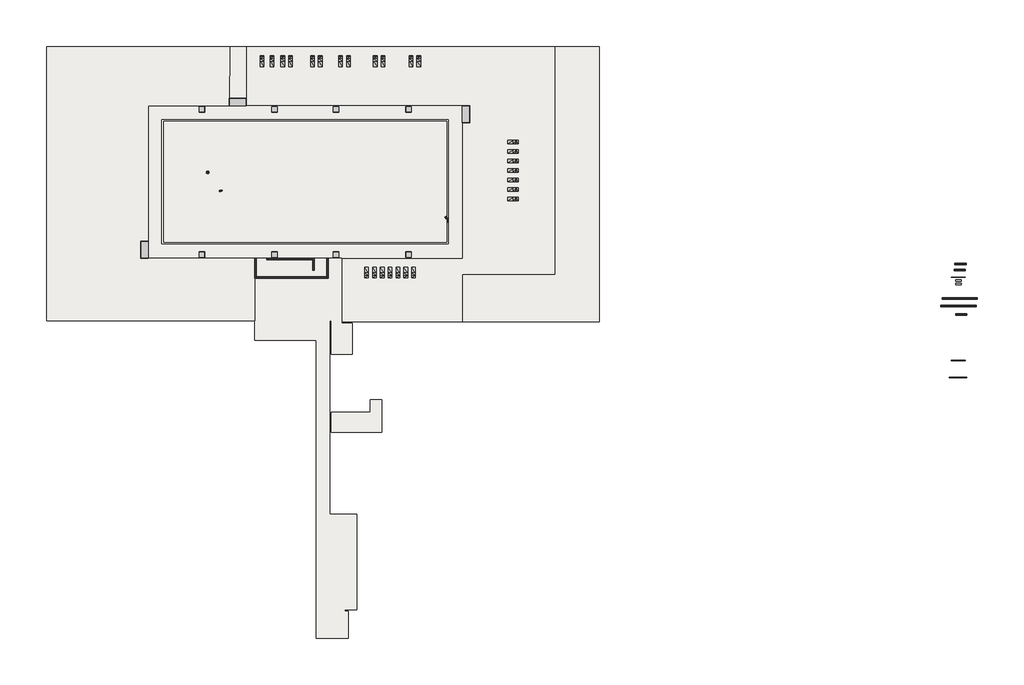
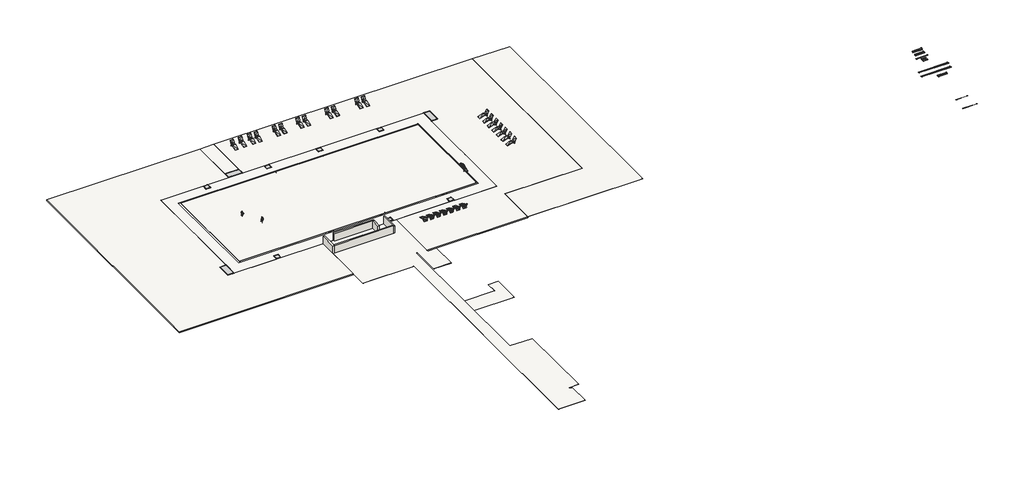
# One storey, incomplete: 29 geographic elements, 23 walls, 21 proxies, 15 slabs.
"""IFC4 building model written with IfcOpenShell, lengths in millimetres."""

from ifc_helpers import new_model, si_unit, frame, origin, origin_with_axes, place, context, project, spatial, polyline, outline, extrude, faceted_brep, transform, mapped, element, save
from components import generic_models_048bb886, generic_models_4fe02839, generic_models_8e2ee31f, generic_models_60fd4de7, generic_models_51e0f152, generic_models_03d70148, generic_models_17735d4e, generic_models_f22ee03e, generic_models_8f0458ef, generic_models_db3a6eff, generic_models_d2bb3819, geographic_element_292c5166, geographic_element_7d3aa87a, geographic_element_a44fb911, geographic_element_951a75af

model = new_model("IFC4")

# Units and contexts
model_context = context("Model", 3, world=origin())
ifc_project = project(units=[si_unit("LENGTHUNIT", "METRE", prefix="MILLI")], contexts=[model_context])

# Site, building, storey
site = spatial("IfcSite", under=ifc_project)
building = spatial("IfcBuilding", under=site)
storey = spatial("IfcBuildingStorey", under=building, Name="1_NPlaya", Elevation=0.0)

# Proxies
placement = place(None, origin())
generic_models_shape = generic_models_048bb886(model_context)
element("IfcBuildingElementProxy", 1, Name="PLATO DE DUCHA : Plato de Ducha 135x300 cm", ObjectType="PLATO DE DUCHA : Plato de Ducha 135x300 cm", at=placement, inside=storey, context=model_context, shape_type="MappedRepresentation", body=[
    mapped(generic_models_shape, transform((-25847.4673719, 28311.5375498, 0.0), x_axis=(0.0, 1.0, 0.0), y_axis=(-1.0, 0.0, 0.0), z_axis=(0.0, 0.0, 1.0))),
])
element("IfcBuildingElementProxy", 2, Name="PLATO DE DUCHA : Plato de Ducha 135x300 cm", ObjectType="PLATO DE DUCHA : Plato de Ducha 135x300 cm", at=placement, inside=storey, context=model_context, shape_type="MappedRepresentation", body=[
    mapped(generic_models_shape, transform((-9171.3667779, 54700.9783322, 0.0), x_axis=(0.9999983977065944, -0.0017901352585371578, 0.0), y_axis=(0.0017901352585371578, 0.9999983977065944, 0.0), z_axis=(0.0, 0.0, 1.0))),
])
element("IfcBuildingElementProxy", 3, Name="PLATO DE DUCHA : Plato de Ducha 135x300 cm", ObjectType="PLATO DE DUCHA : Plato de Ducha 135x300 cm", at=placement, inside=storey, context=model_context, shape_type="MappedRepresentation", body=[
    mapped(generic_models_shape, transform((31622.4505079, 52528.6494833, 0.0), x_axis=(0.0, 1.0, 0.0), y_axis=(-1.0, 0.0, 0.0), z_axis=(0.0, 0.0, 1.0))),
])
generic_models_2_shape = generic_models_4fe02839(model_context)
element("IfcBuildingElementProxy", 4, Name="Muestra 2.5m 138 : Muestra 2.5m 138", ObjectType="Muestra 2.5m 138 : Muestra 2.5m 138", at=placement, inside=storey, context=model_context, shape_type="MappedRepresentation", body=[
    mapped(generic_models_2_shape, transform((-25192.9622892, 18777.7075668, 0.0), x_axis=(1.0, 0.0, 0.0), y_axis=(0.0, 1.0, 0.0), z_axis=(0.0, 0.0, 1.0))),
])
generic_models_3_shape = generic_models_8e2ee31f(model_context)
element("IfcBuildingElementProxy", 5, Name="PLATO DE DUCHA : Plato de Ducha 100x100 cm", ObjectType="PLATO DE DUCHA : Plato de Ducha 100x100 cm", at=placement, inside=storey, context=model_context, shape_type="MappedRepresentation", body=[
    mapped(generic_models_3_shape, transform((-15612.6508784, 53411.6355885, 0.0), x_axis=(1.0, 0.0, 0.0), y_axis=(0.0, 1.0, 0.0), z_axis=(0.0, 0.0, 1.0))),
])
element("IfcBuildingElementProxy", 6, Name="PLATO DE DUCHA : Plato de Ducha 100x100 cm", ObjectType="PLATO DE DUCHA : Plato de Ducha 100x100 cm", at=placement, inside=storey, context=model_context, shape_type="MappedRepresentation", body=[
    mapped(generic_models_3_shape, transform((-2612.1426139, 53411.6355885, 0.0), x_axis=(1.0, 0.0, 0.0), y_axis=(0.0, 1.0, 0.0), z_axis=(0.0, 0.0, 1.0))),
])
element("IfcBuildingElementProxy", 7, Name="PLATO DE DUCHA : Plato de Ducha 100x100 cm", ObjectType="PLATO DE DUCHA : Plato de Ducha 100x100 cm", at=placement, inside=storey, context=model_context, shape_type="MappedRepresentation", body=[
    mapped(generic_models_3_shape, transform((8387.3059827, 53411.6355885, 0.0), x_axis=(1.0, 0.0, 0.0), y_axis=(0.0, 1.0, 0.0), z_axis=(0.0, 0.0, 1.0))),
])
element("IfcBuildingElementProxy", 8, Name="PLATO DE DUCHA : Plato de Ducha 100x100 cm", ObjectType="PLATO DE DUCHA : Plato de Ducha 100x100 cm", at=placement, inside=storey, context=model_context, shape_type="MappedRepresentation", body=[
    mapped(generic_models_3_shape, transform((21387.2830589, 53411.6355885, 0.0), x_axis=(1.0, 0.0, 0.0), y_axis=(0.0, 1.0, 0.0), z_axis=(0.0, 0.0, 1.0))),
])
element("IfcBuildingElementProxy", 9, Name="PLATO DE DUCHA : Plato de Ducha 100x100 cm", ObjectType="PLATO DE DUCHA : Plato de Ducha 100x100 cm", at=placement, inside=storey, context=model_context, shape_type="MappedRepresentation", body=[
    mapped(generic_models_3_shape, transform((21387.2830589, 27428.9858459, 0.0), x_axis=(1.0, 0.0, 0.0), y_axis=(0.0, 1.0, 0.0), z_axis=(0.0, 0.0, 1.0))),
])
element("IfcBuildingElementProxy", 10, Name="PLATO DE DUCHA : Plato de Ducha 100x100 cm", ObjectType="PLATO DE DUCHA : Plato de Ducha 100x100 cm", at=placement, inside=storey, context=model_context, shape_type="MappedRepresentation", body=[
    mapped(generic_models_3_shape, transform((8387.3059827, 27428.9858459, 0.0), x_axis=(1.0, 0.0, 0.0), y_axis=(0.0, 1.0, 0.0), z_axis=(0.0, 0.0, 1.0))),
])
element("IfcBuildingElementProxy", 11, Name="PLATO DE DUCHA : Plato de Ducha 100x100 cm", ObjectType="PLATO DE DUCHA : Plato de Ducha 100x100 cm", at=placement, inside=storey, context=model_context, shape_type="MappedRepresentation", body=[
    mapped(generic_models_3_shape, transform((-2612.1426139, 27428.9858459, 0.0), x_axis=(1.0, 0.0, 0.0), y_axis=(0.0, 1.0, 0.0), z_axis=(0.0, 0.0, 1.0))),
])
element("IfcBuildingElementProxy", 12, Name="PLATO DE DUCHA : Plato de Ducha 100x100 cm", ObjectType="PLATO DE DUCHA : Plato de Ducha 100x100 cm", at=placement, inside=storey, context=model_context, shape_type="MappedRepresentation", body=[
    mapped(generic_models_3_shape, transform((-15612.6508784, 27428.9858459, 0.0), x_axis=(1.0, 0.0, 0.0), y_axis=(0.0, 1.0, 0.0), z_axis=(0.0, 0.0, 1.0))),
])
generic_models_4_shape = generic_models_60fd4de7(model_context)
element("IfcBuildingElementProxy", 13, Name="Muestra 3.16m 183 : Muestra 3.16m 183", ObjectType="Muestra 3.16m 183 : Muestra 3.16m 183", at=placement, inside=storey, context=model_context, shape_type="MappedRepresentation", body=[
    mapped(generic_models_4_shape, transform((-24776.7446036, 18571.6673946, 0.0), x_axis=(1.0, 0.0, 0.0), y_axis=(0.0, 1.0, 0.0), z_axis=(0.0, 0.0, 1.0))),
])
generic_models_5_shape = generic_models_51e0f152(model_context)
element("IfcBuildingElementProxy", 14, Name="Muestra 1.96m RS941 : Muestra 1.96m RS941", ObjectType="Muestra 1.96m RS941 : Muestra 1.96m RS941", at=placement, inside=storey, context=model_context, shape_type="MappedRepresentation", body=[
    mapped(generic_models_5_shape, transform((-46088.8609181, 16758.4731612, 0.0), x_axis=(1.0, 0.0, 0.0), y_axis=(0.0, 1.0, 0.0), z_axis=(0.0, 0.0, 1.0))),
])
generic_models_6_shape = generic_models_03d70148(model_context)
element("IfcBuildingElementProxy", 15, Name="Muestra 6.32m J62 Anti-Slip : Muestra 6.32m J62 Anti-Slip", ObjectType="Muestra 6.32m J62 Anti-Slip : Muestra 6.32m J62 Anti-Slip", at=placement, inside=storey, context=model_context, shape_type="MappedRepresentation", body=[
    mapped(generic_models_6_shape, transform((-60690.1380828, 15876.9453792, 0.0), x_axis=(1.0, 0.0, 0.0), y_axis=(0.0, 1.0, 0.0), z_axis=(0.0, 0.0, 1.0))),
])
generic_models_7_shape = generic_models_17735d4e(model_context)
element("IfcBuildingElementProxy", 16, Name="Muestra 6.32m I25 Anti-Slip : Muestra 6.32m I25 Anti-Slip", ObjectType="Muestra 6.32m I25 Anti-Slip : Muestra 6.32m I25 Anti-Slip", at=placement, inside=storey, context=model_context, shape_type="MappedRepresentation", body=[
    mapped(generic_models_7_shape, transform((70000.0, 0.0, 0.0), x_axis=(1.0, 0.0, 0.0), y_axis=(0.0, 1.0, 0.0), z_axis=(0.0, 0.0, 1.0))),
])
generic_models_8_shape = generic_models_f22ee03e(model_context)
element("IfcBuildingElementProxy", 17, Name="Muestra 1.00ML_245 V2 Ac-Pl-Ca-Sa : Muestra 1.00ML_245 V2 Ac-Pl-Ca-Sa", ObjectType="Muestra 1.00ML_245 V2 Ac-Pl-Ca-Sa : Muestra 1.00ML_245 V2 Ac-Pl-Ca-Sa", at=placement, inside=storey, context=model_context, shape_type="MappedRepresentation", body=[
    mapped(generic_models_8_shape, transform((70000.0, -1000.0, 0.0), x_axis=(1.0, 0.0, 0.0), y_axis=(0.0, 1.0, 0.0), z_axis=(0.0, 0.0, 1.0))),
])
element("IfcBuildingElementProxy", 18, Name="Muestra 1.00m-50piezas_245 V2 Blanco : Muestra 1.00m-50piezas_245 V2 Blanco", ObjectType="Muestra 1.00m-50piezas_245 V2 Blanco : Muestra 1.00m-50piezas_245 V2 Blanco", at=placement, inside=storey, context=model_context, shape_type="MappedRepresentation", body=[
    mapped(generic_models_8_shape, transform((70000.0, -400.0, 0.0), x_axis=(1.0, 0.0, 0.0), y_axis=(0.0, 1.0, 0.0), z_axis=(0.0, 0.0, 1.0))),
])
generic_models_9_shape = generic_models_8f0458ef(model_context)
element("IfcBuildingElementProxy", 19, Name="Muestra 2.5m 971 : Muestra 2.5m 971", ObjectType="Muestra 2.5m 971 : Muestra 2.5m 971", at=placement, inside=storey, context=model_context, shape_type="MappedRepresentation", body=[
    mapped(generic_models_9_shape, transform((70000.0, -1200.0, 0.0), x_axis=(1.0, 0.0, 0.0), y_axis=(0.0, 1.0, 0.0), z_axis=(0.0, 0.0, 1.0))),
])
generic_models_10_shape = generic_models_db3a6eff(model_context)
element("IfcBuildingElementProxy", 20, Name="Muestra 1.96m RS931 : Muestra 1.96m RS931", ObjectType="Muestra 1.96m RS931 : Muestra 1.96m RS931", at=placement, inside=storey, context=model_context, shape_type="MappedRepresentation", body=[
    mapped(generic_models_10_shape, transform((70000.0, -3500.0, 0.0), x_axis=(1.0, 0.0, 0.0), y_axis=(0.0, 1.0, 0.0), z_axis=(0.0, 0.0, 1.0))),
])
generic_models_11_shape = generic_models_d2bb3819(model_context)
element("IfcBuildingElementProxy", 21, Name="Muestra 2.01m RS951 : Muestra 2.01m RS951", ObjectType="Muestra 2.01m RS951 : Muestra 2.01m RS951", at=placement, inside=storey, context=model_context, shape_type="MappedRepresentation", body=[
    mapped(generic_models_11_shape, transform((-14887.7679404, -236.866949, 0.0), x_axis=(1.0, 0.0, 0.0), y_axis=(0.0, 1.0, 0.0), z_axis=(0.0, 0.0, 1.0))),
])

# Geographic elements
geographic_element_shape = geographic_element_292c5166(model_context)
element("IfcGeographicElement", 22, ObjectType="Enscape AssetDefinition - Tumbona 17 : Enscape AssetDefinition - Tumbona 17", at=placement, inside=storey, context=model_context, shape_type="MappedRepresentation", body=[
    mapped(geographic_element_shape, transform((13867.5679984, 24276.4539266, 0.0), x_axis=(-1.0, 0.0, 0.0), y_axis=(0.0, -1.0, 0.0), z_axis=(0.0, 0.0, 1.0))),
])
element("IfcGeographicElement", 23, ObjectType="Enscape AssetDefinition - Tumbona 17 : Enscape AssetDefinition - Tumbona 17", at=placement, inside=storey, context=model_context, shape_type="MappedRepresentation", body=[
    mapped(geographic_element_shape, transform((15267.5679984, 24276.4539266, 0.0), x_axis=(-1.0, 0.0, 0.0), y_axis=(0.0, -1.0, 0.0), z_axis=(0.0, 0.0, 1.0))),
])
element("IfcGeographicElement", 24, ObjectType="Enscape AssetDefinition - Tumbona 17 : Enscape AssetDefinition - Tumbona 17", at=placement, inside=storey, context=model_context, shape_type="MappedRepresentation", body=[
    mapped(geographic_element_shape, transform((39991.1728922, 47563.368284, 0.0), x_axis=(0.0, -1.0, 0.0), y_axis=(1.0, 0.0, 0.0), z_axis=(0.0, 0.0, 1.0))),
])
element("IfcGeographicElement", 25, ObjectType="Enscape AssetDefinition - Tumbona 17 : Enscape AssetDefinition - Tumbona 17", at=placement, inside=storey, context=model_context, shape_type="MappedRepresentation", body=[
    mapped(geographic_element_shape, transform((39991.1728922, 45863.368284, 0.0), x_axis=(0.0, -1.0, 0.0), y_axis=(1.0, 0.0, 0.0), z_axis=(0.0, 0.0, 1.0))),
])
element("IfcGeographicElement", 26, ObjectType="Enscape AssetDefinition - Tumbona 17 : Enscape AssetDefinition - Tumbona 17", at=placement, inside=storey, context=model_context, shape_type="MappedRepresentation", body=[
    mapped(geographic_element_shape, transform((39991.1728922, 44163.368284, 0.0), x_axis=(0.0, -1.0, 0.0), y_axis=(1.0, 0.0, 0.0), z_axis=(0.0, 0.0, 1.0))),
])
element("IfcGeographicElement", 27, ObjectType="Enscape AssetDefinition - Tumbona 17 : Enscape AssetDefinition - Tumbona 17", at=placement, inside=storey, context=model_context, shape_type="MappedRepresentation", body=[
    mapped(geographic_element_shape, transform((-4855.6653271, 61947.192578, 0.0), x_axis=(1.0, 0.0, 0.0), y_axis=(0.0, 1.0, 0.0), z_axis=(0.0, 0.0, 1.0))),
])
element("IfcGeographicElement", 28, ObjectType="Enscape AssetDefinition - Tumbona 17 : Enscape AssetDefinition - Tumbona 17", at=placement, inside=storey, context=model_context, shape_type="MappedRepresentation", body=[
    mapped(geographic_element_shape, transform((-3055.6653271, 61947.192578, 0.0), x_axis=(1.0, 0.0, 0.0), y_axis=(0.0, 1.0, 0.0), z_axis=(0.0, 0.0, 1.0))),
])
element("IfcGeographicElement", 29, ObjectType="Enscape AssetDefinition - Tumbona 17 : Enscape AssetDefinition - Tumbona 17", at=placement, inside=storey, context=model_context, shape_type="MappedRepresentation", body=[
    mapped(geographic_element_shape, transform((-1126.1134449, 61947.192578, 0.0), x_axis=(1.0, 0.0, 0.0), y_axis=(0.0, 1.0, 0.0), z_axis=(0.0, 0.0, 1.0))),
])
element("IfcGeographicElement", 30, ObjectType="Enscape AssetDefinition - Tumbona 17 : Enscape AssetDefinition - Tumbona 17", at=placement, inside=storey, context=model_context, shape_type="MappedRepresentation", body=[
    mapped(geographic_element_shape, transform((16667.5679984, 24276.4539266, 0.0), x_axis=(-1.0, 0.0, 0.0), y_axis=(0.0, -1.0, 0.0), z_axis=(0.0, 0.0, 1.0))),
])
element("IfcGeographicElement", 31, ObjectType="Enscape AssetDefinition - Tumbona 17 : Enscape AssetDefinition - Tumbona 17", at=placement, inside=storey, context=model_context, shape_type="MappedRepresentation", body=[
    mapped(geographic_element_shape, transform((18067.5679984, 24276.4539266, 0.0), x_axis=(-1.0, 0.0, 0.0), y_axis=(0.0, -1.0, 0.0), z_axis=(0.0, 0.0, 1.0))),
])
element("IfcGeographicElement", 32, ObjectType="Enscape AssetDefinition - Tumbona 17 : Enscape AssetDefinition - Tumbona 17", at=placement, inside=storey, context=model_context, shape_type="MappedRepresentation", body=[
    mapped(geographic_element_shape, transform((19467.5679984, 24276.4539266, 0.0), x_axis=(-1.0, 0.0, 0.0), y_axis=(0.0, -1.0, 0.0), z_axis=(0.0, 0.0, 1.0))),
])
element("IfcGeographicElement", 33, ObjectType="Enscape AssetDefinition - Tumbona 17 : Enscape AssetDefinition - Tumbona 17", at=placement, inside=storey, context=model_context, shape_type="MappedRepresentation", body=[
    mapped(geographic_element_shape, transform((20867.5679984, 24276.4539266, 0.0), x_axis=(-1.0, 0.0, 0.0), y_axis=(0.0, -1.0, 0.0), z_axis=(0.0, 0.0, 1.0))),
])
element("IfcGeographicElement", 34, ObjectType="Enscape AssetDefinition - Tumbona 17 : Enscape AssetDefinition - Tumbona 17", at=placement, inside=storey, context=model_context, shape_type="MappedRepresentation", body=[
    mapped(geographic_element_shape, transform((22267.5679984, 24276.4539266, 0.0), x_axis=(-1.0, 0.0, 0.0), y_axis=(0.0, -1.0, 0.0), z_axis=(0.0, 0.0, 1.0))),
])
element("IfcGeographicElement", 35, ObjectType="Enscape AssetDefinition - Tumbona 17 : Enscape AssetDefinition - Tumbona 17", at=placement, inside=storey, context=model_context, shape_type="MappedRepresentation", body=[
    mapped(geographic_element_shape, transform((39991.1728922, 42463.368284, 0.0), x_axis=(0.0, -1.0, 0.0), y_axis=(1.0, 0.0, 0.0), z_axis=(0.0, 0.0, 1.0))),
])
element("IfcGeographicElement", 36, ObjectType="Enscape AssetDefinition - Tumbona 17 : Enscape AssetDefinition - Tumbona 17", at=placement, inside=storey, context=model_context, shape_type="MappedRepresentation", body=[
    mapped(geographic_element_shape, transform((39991.1728922, 40763.368284, 0.0), x_axis=(0.0, -1.0, 0.0), y_axis=(1.0, 0.0, 0.0), z_axis=(0.0, 0.0, 1.0))),
])
element("IfcGeographicElement", 37, ObjectType="Enscape AssetDefinition - Tumbona 17 : Enscape AssetDefinition - Tumbona 17", at=placement, inside=storey, context=model_context, shape_type="MappedRepresentation", body=[
    mapped(geographic_element_shape, transform((39991.1728922, 39063.368284, 0.0), x_axis=(0.0, -1.0, 0.0), y_axis=(1.0, 0.0, 0.0), z_axis=(0.0, 0.0, 1.0))),
])
element("IfcGeographicElement", 38, ObjectType="Enscape AssetDefinition - Tumbona 17 : Enscape AssetDefinition - Tumbona 17", at=placement, inside=storey, context=model_context, shape_type="MappedRepresentation", body=[
    mapped(geographic_element_shape, transform((39991.1728922, 37363.368284, 0.0), x_axis=(0.0, -1.0, 0.0), y_axis=(1.0, 0.0, 0.0), z_axis=(0.0, 0.0, 1.0))),
])
element("IfcGeographicElement", 39, ObjectType="Enscape AssetDefinition - Tumbona 17 : Enscape AssetDefinition - Tumbona 17", at=placement, inside=storey, context=model_context, shape_type="MappedRepresentation", body=[
    mapped(geographic_element_shape, transform((273.8865551, 61947.192578, 0.0), x_axis=(1.0, 0.0, 0.0), y_axis=(0.0, 1.0, 0.0), z_axis=(0.0, 0.0, 1.0))),
])
element("IfcGeographicElement", 40, ObjectType="Enscape AssetDefinition - Tumbona 17 : Enscape AssetDefinition - Tumbona 17", at=placement, inside=storey, context=model_context, shape_type="MappedRepresentation", body=[
    mapped(geographic_element_shape, transform((4173.8865551, 61947.192578, 0.0), x_axis=(1.0, 0.0, 0.0), y_axis=(0.0, 1.0, 0.0), z_axis=(0.0, 0.0, 1.0))),
])
element("IfcGeographicElement", 41, ObjectType="Enscape AssetDefinition - Tumbona 17 : Enscape AssetDefinition - Tumbona 17", at=placement, inside=storey, context=model_context, shape_type="MappedRepresentation", body=[
    mapped(geographic_element_shape, transform((5573.8865551, 61947.192578, 0.0), x_axis=(1.0, 0.0, 0.0), y_axis=(0.0, 1.0, 0.0), z_axis=(0.0, 0.0, 1.0))),
])
element("IfcGeographicElement", 42, ObjectType="Enscape AssetDefinition - Tumbona 17 : Enscape AssetDefinition - Tumbona 17", at=placement, inside=storey, context=model_context, shape_type="MappedRepresentation", body=[
    mapped(geographic_element_shape, transform((9205.3189651, 61947.192578, 0.0), x_axis=(1.0, 0.0, 0.0), y_axis=(0.0, 1.0, 0.0), z_axis=(0.0, 0.0, 1.0))),
])
element("IfcGeographicElement", 43, ObjectType="Enscape AssetDefinition - Tumbona 17 : Enscape AssetDefinition - Tumbona 17", at=placement, inside=storey, context=model_context, shape_type="MappedRepresentation", body=[
    mapped(geographic_element_shape, transform((10605.3189651, 61947.192578, 0.0), x_axis=(1.0, 0.0, 0.0), y_axis=(0.0, 1.0, 0.0), z_axis=(0.0, 0.0, 1.0))),
])
element("IfcGeographicElement", 44, ObjectType="Enscape AssetDefinition - Tumbona 17 : Enscape AssetDefinition - Tumbona 17", at=placement, inside=storey, context=model_context, shape_type="MappedRepresentation", body=[
    mapped(geographic_element_shape, transform((15405.3189651, 61947.192578, 0.0), x_axis=(1.0, 0.0, 0.0), y_axis=(0.0, 1.0, 0.0), z_axis=(0.0, 0.0, 1.0))),
])
element("IfcGeographicElement", 45, ObjectType="Enscape AssetDefinition - Tumbona 17 : Enscape AssetDefinition - Tumbona 17", at=placement, inside=storey, context=model_context, shape_type="MappedRepresentation", body=[
    mapped(geographic_element_shape, transform((16805.3189651, 61947.192578, 0.0), x_axis=(1.0, 0.0, 0.0), y_axis=(0.0, 1.0, 0.0), z_axis=(0.0, 0.0, 1.0))),
])
element("IfcGeographicElement", 46, ObjectType="Enscape AssetDefinition - Tumbona 17 : Enscape AssetDefinition - Tumbona 17", at=placement, inside=storey, context=model_context, shape_type="MappedRepresentation", body=[
    mapped(geographic_element_shape, transform((21805.2960411, 61947.192578, 0.0), x_axis=(1.0, 0.0, 0.0), y_axis=(0.0, 1.0, 0.0), z_axis=(0.0, 0.0, 1.0))),
])
element("IfcGeographicElement", 47, ObjectType="Enscape AssetDefinition - Tumbona 17 : Enscape AssetDefinition - Tumbona 17", at=placement, inside=storey, context=model_context, shape_type="MappedRepresentation", body=[
    mapped(geographic_element_shape, transform((23205.2960411, 61947.192578, 0.0), x_axis=(1.0, 0.0, 0.0), y_axis=(0.0, 1.0, 0.0), z_axis=(0.0, 0.0, 1.0))),
])
geographic_element_2_shape = geographic_element_7d3aa87a(model_context)
element("IfcGeographicElement", 48, ObjectType="Enscape AssetDefinition - Terrell saltando : Enscape AssetDefinition - Terrell saltando", at=placement, inside=storey, context=model_context, shape_type="MappedRepresentation", body=[
    mapped(geographic_element_2_shape, transform((28162.8465839, 34100.0935166, 0.0), x_axis=(-1.0, 0.0, 0.0), y_axis=(0.0, -1.0, 0.0), z_axis=(0.0, 0.0, 1.0))),
])
geographic_element_3_shape = geographic_element_a44fb911(model_context)
element("IfcGeographicElement", 49, ObjectType="Enscape AssetDefinition - Carolina de pie : Enscape AssetDefinition - Carolina de pie", at=placement, inside=storey, context=model_context, shape_type="MappedRepresentation", body=[
    mapped(geographic_element_3_shape, transform((-14559.5431418, 42063.368284, -780.0), x_axis=(1.0, 0.0, 0.0), y_axis=(0.0, 1.0, 0.0), z_axis=(0.0, 0.0, 1.0))),
])
geographic_element_4_shape = geographic_element_951a75af(model_context)
element("IfcGeographicElement", 50, ObjectType="Enscape AssetDefinition - Darren de pie : Enscape AssetDefinition - Darren de pie", at=placement, inside=storey, context=model_context, shape_type="MappedRepresentation", body=[
    mapped(geographic_element_4_shape, transform((-12308.070306, 38863.368284, -900.0), x_axis=(-1.0, 0.0, 0.0), y_axis=(0.0, -1.0, 0.0), z_axis=(0.0, 0.0, 1.0))),
])

# Slabs
element("IfcSlab", 51, ObjectType="Pieza 244 G1_Patrón Recto_Aqua_Blanco_Anti-Slip", at=placement, inside=storey, context=model_context, shape_type="SweptSolid", body=[
    extrude(outline(polyline([(-2246.6653271, 51207.204511), (-2246.6653271, 51003.3642477), (-3046.6653271, 51003.3642477), (-3046.6653271, 51207.204511), (-2246.6653271, 51207.204511)])), frame((0.0, 0.0, -759.0), z_axis=(0.0, 0.0, 1.0), x_axis=(1.0, 0.0, 0.0)), (0.0, 0.0, 1.0), 9.0),
])
element("IfcSlab", 52, ObjectType="GENÉRICO_LOSA 20 cm", at=placement, inside=storey, context=model_context, shape_type="SweptSolid", body=[
    extrude(outline(polyline([(-960.2931631, -15117.0703062), (-1610.2931631, -3116.5620418), (-1410.0, -3116.5620418), (-760.0, -15117.0703062), (-960.2931631, -15117.0703062)])), frame((0.0, 29954.368284, 0.0), z_axis=(0.0, 1.0, 0.0), x_axis=(0.0, 0.0, 1.0)), (0.0, 0.0, 1.0), 21018.0),
])
element("IfcSlab", 53, ObjectType="GENÉRICO_LOSA 20 cm", at=placement, inside=storey, context=model_context, shape_type="SweptSolid", body=[
    extrude(outline(polyline([(-1610.2498449, 8882.8865549), (-2210.2498449, 20882.8636311), (-2010.0, 20882.8636311), (-1410.0, 8882.8865549), (-1610.2498449, 8882.8865549)])), frame((0.0, 29954.368284, 0.0), z_axis=(0.0, 1.0, 0.0), x_axis=(0.0, 0.0, 1.0)), (0.0, 0.0, 1.0), 21018.0),
])
element("IfcSlab", 54, ObjectType="Pieza 240 G1_Patrón Recto_Aqua_Indubeige_Pastilla", at=placement, inside=storey, context=model_context, shape_type="SweptSolid", body=[
    extrude(outline(polyline([(30947.4505079, 54028.6494834), (30947.4505079, 26811.5375497), (-25172.4673719, 26811.5375497), (-25172.4673719, 54028.6494834), (30947.4505079, 54028.6494834)]), holes=[polyline([(-15112.6508784, 53911.6355885), (-16114.3407036, 53911.6355885), (-16114.3407036, 52913.3282754), (-15112.6508784, 52913.3282754), (-15112.6508784, 53911.6355885)]), polyline([(-2112.1426139, 53911.6355885), (-3113.8324391, 53911.6355885), (-3113.8324391, 52913.3282754), (-2112.1426139, 52913.3282754), (-2112.1426139, 53911.6355885)]), polyline([(8887.3059827, 53911.6355885), (7885.6161575, 53911.6355885), (7885.6161575, 52913.3282754), (8887.3059827, 52913.3282754), (8887.3059827, 53911.6355885)]), polyline([(21887.2830589, 53911.6355885), (20885.5932337, 53911.6355885), (20885.5932337, 52913.3282754), (21887.2830589, 52913.3282754), (21887.2830589, 53911.6355885)]), polyline([(21887.2830589, 27928.9858459), (20885.5932337, 27928.9858459), (20885.5932337, 26930.6785328), (21887.2830589, 26930.6785328), (21887.2830589, 27928.9858459)]), polyline([(8887.3059827, 27928.9858459), (7885.6161575, 27928.9858459), (7885.6161575, 26930.6785328), (8887.3059827, 26930.6785328), (8887.3059827, 27928.9858459)]), polyline([(-2112.1426139, 27928.9858459), (-3113.8324391, 27928.9858459), (-3113.8324391, 26930.6785328), (-2112.1426139, 26930.6785328), (-2112.1426139, 27928.9858459)]), polyline([(-15112.6508784, 27928.9858459), (-16114.3407036, 27928.9858459), (-16114.3407036, 26930.6785328), (-15112.6508784, 26930.6785328), (-15112.6508784, 27928.9858459)]), polyline([(-22767.825763, 51577.9591637), (-22767.825763, 29348.7774044), (28461.3559964, 29348.7774044), (28461.3559964, 51577.9591637), (-22767.825763, 51577.9591637)])]), frame((0.0, 0.0, -9.0), z_axis=(0.0, 0.0, 1.0), x_axis=(1.0, 0.0, 0.0)), (0.0, 0.0, 1.0), 9.0),
])
element("IfcSlab", 55, ObjectType="GENÉRICO_AGUA", at=placement, inside=storey, context=model_context, shape_type="SweptSolid", body=[
    extrude(outline(polyline([(-22465.2348833, 51275.368284), (28158.7651167, 51275.368284), (28158.7651167, 29651.368284), (-22465.2348833, 29651.368284), (-22465.2348833, 51275.368284)])), frame((0.0, 0.0, -1.0), z_axis=(0.0, 0.0, 1.0), x_axis=(1.0, 0.0, 0.0)), (0.0, 0.0, 1.0), 1.0),
])
element("IfcSlab", 56, ObjectType="GENÉRICO_HIERBA", at=placement, inside=storey, context=model_context, shape_type="SweptSolid", body=[
    extrude(outline(polyline([(-10653.564084, 64647.192578), (-10672.5727428, 54028.6494834), (-25172.4673719, 54028.6494834), (-25172.4673719, 29811.5375498), (-26522.4673719, 29811.5375498), (-26522.4673719, 26811.5375497), (-6159.5431418, 26811.5375497), (-6159.5431418, 15615.988628), (-43389.7071393, 15615.988628), (-43389.7071393, 64647.192578), (-10653.564084, 64647.192578)])), frame((0.0, 0.0, -231.0), z_axis=(0.0, 0.0, 1.0), x_axis=(1.0, 0.0, 0.0)), (0.0, 0.0, 1.0), 231.0),
])
element("IfcSlab", 57, ObjectType="GENÉRICO_HIERBA", at=placement, inside=storey, context=model_context, shape_type="SweptSolid", body=[
    extrude(outline(polyline([(47491.8974927, 64647.192578), (47491.8974927, 23957.2469504), (30947.4505079, 23957.2469504), (30947.4505079, 15415.988628), (9422.1560912, 15415.988628), (9422.1560912, 26811.5375497), (30947.4505079, 26811.5375497), (30947.4505079, 51028.6494833), (32297.4505079, 51028.6494833), (32297.4505079, 54028.6494834), (-7672.5727428, 54028.6494834), (-7672.5727428, 64647.192578), (47491.8974927, 64647.192578)])), frame((0.0, 0.0, -231.0), z_axis=(0.0, 0.0, 1.0), x_axis=(1.0, 0.0, 0.0)), (0.0, 0.0, 1.0), 231.0),
])
element("IfcSlab", 58, ObjectType="Pieza 240 G1_Patrón Recto_Aqua_Indubeige_Pastilla", at=placement, inside=storey, context=model_context, shape_type="SweptSolid", body=[
    extrude(outline(polyline([(47491.8974927, 64647.192578), (55491.1728922, 64647.192578), (55491.1728922, 15415.988628), (30947.4505079, 15415.988628), (30947.4505079, 23957.2469504), (47491.8974927, 23957.2469504), (47491.8974927, 64647.192578)])), frame((0.0, 0.0, -9.0), z_axis=(0.0, 0.0, 1.0), x_axis=(1.0, 0.0, 0.0)), (0.0, 0.0, 1.0), 9.0),
])
element("IfcSlab", 59, ObjectType="GENÉRICO_PLAYA", at=placement, inside=storey, context=model_context, shape_type="SweptSolid", body=[
    extrude(outline(polyline([(-6159.5431418, 26811.5375497), (9422.1560912, 26811.5375497), (9422.1560912, 15115.988628), (11267.5679984, 15115.988628), (11267.5679984, 9590.8523897), (7561.063018, 9590.8523897), (7561.063018, 15584.3612624), (7261.063018, 15584.3612624), (7261.063018, -18994.8446129), (12061.0630204, -18994.8446129), (12061.0630204, -36079.0140309), (9961.0630174, -36079.0140309), (9961.0630174, -36379.0140309), (10555.9892565, -36379.0140309), (10555.9892565, -41165.6888719), (4811.0630191, -41165.6888719), (4811.0630191, 12130.1553865), (-6159.5431418, 12130.1553865), (-6159.5431418, 26811.5375497)])), frame((0.0, 0.0, -9.0), z_axis=(0.0, 0.0, 1.0), x_axis=(1.0, 0.0, 0.0)), (0.0, 0.0, 1.0), 9.0),
    extrude(outline(polyline([(-10653.564084, 64647.192578), (-7672.5727428, 64647.192578), (-7672.5727428, 55304.0417764), (-10670.2896144, 55304.0417764), (-10653.564084, 64647.192578)])), frame((0.0, 0.0, -9.0), z_axis=(0.0, 0.0, 1.0), x_axis=(1.0, 0.0, 0.0)), (0.0, 0.0, 1.0), 9.0),
])
element("IfcSlab", 60, ObjectType="GENÉRICO_PLAYA", at=placement, inside=storey, context=model_context, shape_type="SweptSolid", body=[
    extrude(outline(polyline([(14495.2892399, -809.1476103), (14495.2892399, 1492.6449713), (16596.1892165, 1492.6449713), (16596.1892165, -4376.2220179), (7561.063018, -4376.2220179), (7561.063018, -809.1476103), (14495.2892399, -809.1476103)])), frame((0.0, 0.0, -1109.0), z_axis=(0.0, 0.0, 1.0), x_axis=(1.0, 0.0, 0.0)), (0.0, 0.0, 1.0), 9.0),
])
element("IfcSlab", 61, ObjectType="Pieza 244 G1_Patrón Recto_Aqua_Blanco_Anti-Slip", at=placement, inside=storey, context=model_context, shape_type="SweptSolid", body=[
    extrude(outline(polyline([(8782.8865551, 51207.204511), (8782.8865551, 51003.3642477), (7982.8865551, 51003.3642477), (7982.8865551, 51207.204511), (8782.8865551, 51207.204511)])), frame((0.0, 0.0, -759.0), z_axis=(0.0, 0.0, 1.0), x_axis=(1.0, 0.0, 0.0)), (0.0, 0.0, 1.0), 9.0),
])
element("IfcSlab", 62, ObjectType="Pieza 244 G1_Patrón Recto_Aqua_Blanco_Anti-Slip", at=placement, inside=storey, context=model_context, shape_type="SweptSolid", body=[
    extrude(outline(polyline([(21782.8636311, 51207.204511), (21782.8636311, 51003.3642477), (20982.8636311, 51003.3642477), (20982.8636311, 51207.204511), (21782.8636311, 51207.204511)])), frame((0.0, 0.0, -759.0), z_axis=(0.0, 0.0, 1.0), x_axis=(1.0, 0.0, 0.0)), (0.0, 0.0, 1.0), 9.0),
])
element("IfcSlab", 63, ObjectType="Pieza 244 G1_Patrón Recto_Aqua_Blanco_Anti-Slip", at=placement, inside=storey, context=model_context, shape_type="SweptSolid", body=[
    extrude(outline(polyline([(21782.8636311, 29719.5320571), (20982.8636311, 29719.5320571), (20982.8636311, 29923.3723204), (21782.8636311, 29923.3723204), (21782.8636311, 29719.5320571)])), frame((0.0, 0.0, -759.0), z_axis=(0.0, 0.0, 1.0), x_axis=(1.0, 0.0, 0.0)), (0.0, 0.0, 1.0), 9.0),
])
element("IfcSlab", 64, ObjectType="Pieza 244 G1_Patrón Recto_Aqua_Blanco_Anti-Slip", at=placement, inside=storey, context=model_context, shape_type="SweptSolid", body=[
    extrude(outline(polyline([(8782.8865551, 29719.5320571), (7982.8865551, 29719.5320571), (7982.8865551, 29923.3723204), (8782.8865551, 29923.3723204), (8782.8865551, 29719.5320571)])), frame((0.0, 0.0, -759.0), z_axis=(0.0, 0.0, 1.0), x_axis=(1.0, 0.0, 0.0)), (0.0, 0.0, 1.0), 9.0),
])
element("IfcSlab", 65, ObjectType="Pieza 244 G1_Patrón Recto_Aqua_Blanco_Anti-Slip", at=placement, inside=storey, context=model_context, shape_type="SweptSolid", body=[
    extrude(outline(polyline([(-2246.6653271, 29719.5320571), (-3046.6653271, 29719.5320571), (-3046.6653271, 29923.3723204), (-2246.6653271, 29923.3723204), (-2246.6653271, 29719.5320571)])), frame((0.0, 0.0, -759.0), z_axis=(0.0, 0.0, 1.0), x_axis=(1.0, 0.0, 0.0)), (0.0, 0.0, 1.0), 9.0),
])

# Walls
element("IfcWall", 66, ObjectType="Pieza 244 G1_Patrón Recto_Aqua_Blanco_Liso", at=placement, inside=storey, context=model_context, shape_type="SweptSolid", body=[
    extrude(outline(polyline([(-2246.6653271, 51207.204511), (-3046.6653271, 51207.204511), (-3046.6653271, 51216.204511), (-2246.6653271, 51216.204511), (-2246.6653271, 51207.204511)])), frame((0.0, 0.0, -750.0), z_axis=(0.0, 0.0, 1.0), x_axis=(1.0, 0.0, 0.0)), (0.0, 0.0, 1.0), 713.2),
])
element("IfcWall", 67, ObjectType="Pieza 244 G1_Patrón Recto_Aqua_Blanco_Liso", at=placement, inside=storey, context=model_context, shape_type="SweptSolid", body=[
    extrude(outline(polyline([(51207.204511, -750.0), (51003.368284, -750.0), (51003.368284, -54.1559994), (51207.204511, -37.5646786), (51207.204511, -750.0)])), frame((-3055.6653271, 0.0, 0.0), z_axis=(1.0, 0.0, 0.0), x_axis=(0.0, 1.0, 0.0)), (0.0, 0.0, 1.0), 9.0),
])
element("IfcWall", 68, ObjectType="Pieza 244 G1_Patrón Recto_Aqua_Blanco_Liso", at=placement, inside=storey, context=model_context, shape_type="SweptSolid", body=[
    extrude(outline(polyline([(51207.204511, -750.0), (51003.368284, -750.0), (51003.368284, -54.1559994), (51207.204511, -37.5646786), (51207.204511, -750.0)])), frame((-2246.6653271, 0.0, 0.0), z_axis=(1.0, 0.0, 0.0), x_axis=(0.0, 1.0, 0.0)), (0.0, 0.0, 1.0), 9.0),
])
element("IfcWall", 69, ObjectType="GENÉRICO_MURO BASE 30 cm", at=placement, inside=storey, context=model_context, shape_type="Brep", body=[
    faceted_brep([(-6159.5431418, 26811.5375497, 0.0), (-6159.5431418, 23176.4539266, 0.0), (-6159.5431418, 23176.4539266, 1700.0), (-6159.5431418, 26811.5375497, 1700.0), (-5859.5431418, 26811.5375497, 0.0), (-5859.5431418, 26811.5375497, 1700.0), (-5859.5431418, 23476.4539266, 1700.0), (-5859.5431418, 23176.4539266, 1700.0), (-5859.5431418, 23176.4539266, 0.0), (-5859.5431418, 23476.4539266, 0.0)], [[[0, 1, 2, 3]], [[4, 5, 6, 7, 8, 9]], [[1, 0, 4, 9, 8]], [[2, 1, 8, 7]], [[3, 2, 7, 6, 5]], [[0, 3, 5, 4]]]),
])
element("IfcWall", 70, ObjectType="GENÉRICO_MURO BASE 30 cm", at=placement, inside=storey, context=model_context, shape_type="SweptSolid", body=[
    extrude(outline(polyline([(6740.4546209, 23176.4539266), (-5859.5431418, 23176.4539266), (-5859.5431418, 23476.4539266), (6740.4546209, 23476.4539266), (6740.4546209, 23176.4539266)])), origin_with_axes(), (0.0, 0.0, 1.0), 1700.0),
])
element("IfcWall", 71, ObjectType="GENÉRICO_MURO BASE 30 cm", at=placement, inside=storey, context=model_context, shape_type="Brep", body=[
    faceted_brep([(7040.4546209, 23176.4539266, 0.0), (7040.4546209, 26811.5375497, 0.0), (7040.4546209, 26811.5375497, 1700.0), (7040.4546209, 23176.4539266, 1700.0), (6740.4546209, 23176.4539266, 0.0), (6740.4546209, 23176.4539266, 1700.0), (6740.4546209, 23476.4539266, 1700.0), (6740.4546209, 26811.5375497, 1700.0), (6740.4546209, 26811.5375497, 0.0), (6740.4546209, 23476.4539266, 0.0)], [[[0, 1, 2, 3]], [[4, 5, 6, 7, 8, 9]], [[1, 0, 4, 9, 8]], [[2, 1, 8, 7]], [[3, 2, 7, 6, 5]], [[0, 3, 5, 4]]]),
])
element("IfcWall", 72, ObjectType="GENÉRICO_MURO BASE 30 cm", at=placement, inside=storey, context=model_context, shape_type="Brep", body=[
    faceted_brep([(-3959.5431418, 26511.5375497, 0.0), (4240.4568582, 26511.5375497, 0.0), (4540.4568582, 26511.5375497, 0.0), (4540.4568582, 26511.5375497, 1700.0), (4240.4568582, 26511.5375497, 1700.0), (-3959.5431418, 26511.5375497, 1700.0), (-3959.5431418, 26811.5375497, 0.0), (-3959.5431418, 26811.5375497, 1700.0), (4540.4568582, 26811.5375497, 1700.0), (4540.4568582, 26811.5375497, 0.0)], [[[0, 1, 2, 3, 4, 5]], [[6, 7, 8, 9]], [[2, 1, 0, 6, 9]], [[3, 2, 9, 8]], [[5, 4, 3, 8, 7]], [[0, 5, 7, 6]]]),
])
element("IfcWall", 73, ObjectType="GENÉRICO_MURO BASE 30 cm", at=placement, inside=storey, context=model_context, shape_type="SweptSolid", body=[
    extrude(outline(polyline([(4240.4568582, 24611.5375497), (4240.4568582, 26511.5375497), (4540.4568582, 26511.5375497), (4540.4568582, 24611.5375497), (4240.4568582, 24611.5375497)])), origin_with_axes(), (0.0, 0.0, 1.0), 1700.0),
])
element("IfcWall", 74, ObjectType="Pieza 244 G1_Patrón Recto_Aqua_Blanco_Liso", at=placement, inside=storey, context=model_context, shape_type="SweptSolid", body=[
    extrude(outline(polyline([(8782.8865551, 51207.204511), (7982.8865551, 51207.204511), (7982.8865551, 51216.204511), (8782.8865551, 51216.204511), (8782.8865551, 51207.204511)])), frame((0.0, 0.0, -750.0), z_axis=(0.0, 0.0, 1.0), x_axis=(1.0, 0.0, 0.0)), (0.0, 0.0, 1.0), 713.2),
])
element("IfcWall", 75, ObjectType="Pieza 244 G1_Patrón Recto_Aqua_Blanco_Liso", at=placement, inside=storey, context=model_context, shape_type="SweptSolid", body=[
    extrude(outline(polyline([(51207.204511, -750.0), (51003.368284, -750.0), (51003.368284, -54.1559994), (51207.204511, -37.5646786), (51207.204511, -750.0)])), frame((7973.8865551, 0.0, 0.0), z_axis=(1.0, 0.0, 0.0), x_axis=(0.0, 1.0, 0.0)), (0.0, 0.0, 1.0), 9.0),
])
element("IfcWall", 76, ObjectType="Pieza 244 G1_Patrón Recto_Aqua_Blanco_Liso", at=placement, inside=storey, context=model_context, shape_type="SweptSolid", body=[
    extrude(outline(polyline([(51207.204511, -750.0), (51003.368284, -750.0), (51003.368284, -54.1559994), (51207.204511, -37.5646786), (51207.204511, -750.0)])), frame((8782.8865551, 0.0, 0.0), z_axis=(1.0, 0.0, 0.0), x_axis=(0.0, 1.0, 0.0)), (0.0, 0.0, 1.0), 9.0),
])
element("IfcWall", 77, ObjectType="Pieza 244 G1_Patrón Recto_Aqua_Blanco_Liso", at=placement, inside=storey, context=model_context, shape_type="SweptSolid", body=[
    extrude(outline(polyline([(21782.8636311, 51207.204511), (20982.8636311, 51207.204511), (20982.8636311, 51216.204511), (21782.8636311, 51216.204511), (21782.8636311, 51207.204511)])), frame((0.0, 0.0, -750.0), z_axis=(0.0, 0.0, 1.0), x_axis=(1.0, 0.0, 0.0)), (0.0, 0.0, 1.0), 713.2),
])
element("IfcWall", 78, ObjectType="Pieza 244 G1_Patrón Recto_Aqua_Blanco_Liso", at=placement, inside=storey, context=model_context, shape_type="SweptSolid", body=[
    extrude(outline(polyline([(51207.204511, -750.0), (51003.368284, -750.0), (51003.368284, -54.1559994), (51207.204511, -37.5646786), (51207.204511, -750.0)])), frame((20973.8636311, 0.0, 0.0), z_axis=(1.0, 0.0, 0.0), x_axis=(0.0, 1.0, 0.0)), (0.0, 0.0, 1.0), 9.0),
])
element("IfcWall", 79, ObjectType="Pieza 244 G1_Patrón Recto_Aqua_Blanco_Liso", at=placement, inside=storey, context=model_context, shape_type="SweptSolid", body=[
    extrude(outline(polyline([(51207.204511, -750.0), (51003.368284, -750.0), (51003.368284, -54.1559994), (51207.204511, -37.5646786), (51207.204511, -750.0)])), frame((21782.8636311, 0.0, 0.0), z_axis=(1.0, 0.0, 0.0), x_axis=(0.0, 1.0, 0.0)), (0.0, 0.0, 1.0), 9.0),
])
element("IfcWall", 80, ObjectType="Pieza 244 G1_Patrón Recto_Aqua_Blanco_Liso", at=placement, inside=storey, context=model_context, shape_type="SweptSolid", body=[
    extrude(outline(polyline([(21782.8636311, 29710.5320571), (20982.8636311, 29710.5320571), (20982.8636311, 29719.5320571), (21782.8636311, 29719.5320571), (21782.8636311, 29710.5320571)])), frame((0.0, 0.0, -750.0), z_axis=(0.0, 0.0, 1.0), x_axis=(1.0, 0.0, 0.0)), (0.0, 0.0, 1.0), 713.2),
])
element("IfcWall", 81, ObjectType="Pieza 244 G1_Patrón Recto_Aqua_Blanco_Liso", at=placement, inside=storey, context=model_context, shape_type="SweptSolid", body=[
    extrude(outline(polyline([(29719.5320571, -750.0), (29719.5320571, -37.5646786), (29923.368284, -54.1559994), (29923.368284, -750.0), (29719.5320571, -750.0)])), frame((20973.8636311, 0.0, 0.0), z_axis=(1.0, 0.0, 0.0), x_axis=(0.0, 1.0, 0.0)), (0.0, 0.0, 1.0), 9.0),
])
element("IfcWall", 82, ObjectType="Pieza 244 G1_Patrón Recto_Aqua_Blanco_Liso", at=placement, inside=storey, context=model_context, shape_type="SweptSolid", body=[
    extrude(outline(polyline([(29719.5320571, -750.0), (29719.5320571, -37.5646786), (29923.368284, -54.1559994), (29923.368284, -750.0), (29719.5320571, -750.0)])), frame((21782.8636311, 0.0, 0.0), z_axis=(1.0, 0.0, 0.0), x_axis=(0.0, 1.0, 0.0)), (0.0, 0.0, 1.0), 9.0),
])
element("IfcWall", 83, ObjectType="Pieza 244 G1_Patrón Recto_Aqua_Blanco_Liso", at=placement, inside=storey, context=model_context, shape_type="SweptSolid", body=[
    extrude(outline(polyline([(8782.8865551, 29710.5320571), (7982.8865551, 29710.5320571), (7982.8865551, 29719.5320571), (8782.8865551, 29719.5320571), (8782.8865551, 29710.5320571)])), frame((0.0, 0.0, -750.0), z_axis=(0.0, 0.0, 1.0), x_axis=(1.0, 0.0, 0.0)), (0.0, 0.0, 1.0), 713.2),
])
element("IfcWall", 84, ObjectType="Pieza 244 G1_Patrón Recto_Aqua_Blanco_Liso", at=placement, inside=storey, context=model_context, shape_type="SweptSolid", body=[
    extrude(outline(polyline([(29719.5320571, -750.0), (29719.5320571, -37.5646786), (29923.368284, -54.1559994), (29923.368284, -750.0), (29719.5320571, -750.0)])), frame((7973.8865551, 0.0, 0.0), z_axis=(1.0, 0.0, 0.0), x_axis=(0.0, 1.0, 0.0)), (0.0, 0.0, 1.0), 9.0),
])
element("IfcWall", 85, ObjectType="Pieza 244 G1_Patrón Recto_Aqua_Blanco_Liso", at=placement, inside=storey, context=model_context, shape_type="SweptSolid", body=[
    extrude(outline(polyline([(29719.5320571, -750.0), (29719.5320571, -37.5646786), (29923.368284, -54.1559994), (29923.368284, -750.0), (29719.5320571, -750.0)])), frame((8782.8865551, 0.0, 0.0), z_axis=(1.0, 0.0, 0.0), x_axis=(0.0, 1.0, 0.0)), (0.0, 0.0, 1.0), 9.0),
])
element("IfcWall", 86, ObjectType="Pieza 244 G1_Patrón Recto_Aqua_Blanco_Liso", at=placement, inside=storey, context=model_context, shape_type="SweptSolid", body=[
    extrude(outline(polyline([(-2246.6653271, 29710.5320571), (-3046.6653271, 29710.5320571), (-3046.6653271, 29719.5320571), (-2246.6653271, 29719.5320571), (-2246.6653271, 29710.5320571)])), frame((0.0, 0.0, -750.0), z_axis=(0.0, 0.0, 1.0), x_axis=(1.0, 0.0, 0.0)), (0.0, 0.0, 1.0), 713.2),
])
element("IfcWall", 87, ObjectType="Pieza 244 G1_Patrón Recto_Aqua_Blanco_Liso", at=placement, inside=storey, context=model_context, shape_type="SweptSolid", body=[
    extrude(outline(polyline([(29719.5320571, -750.0), (29719.5320571, -37.5646786), (29923.368284, -54.1559994), (29923.368284, -750.0), (29719.5320571, -750.0)])), frame((-3055.6653271, 0.0, 0.0), z_axis=(1.0, 0.0, 0.0), x_axis=(0.0, 1.0, 0.0)), (0.0, 0.0, 1.0), 9.0),
])
element("IfcWall", 88, ObjectType="Pieza 244 G1_Patrón Recto_Aqua_Blanco_Liso", at=placement, inside=storey, context=model_context, shape_type="SweptSolid", body=[
    extrude(outline(polyline([(29719.5320571, -750.0), (29719.5320571, -37.5646786), (29923.368284, -54.1559994), (29923.368284, -750.0), (29719.5320571, -750.0)])), frame((-2246.6653271, 0.0, 0.0), z_axis=(1.0, 0.0, 0.0), x_axis=(0.0, 1.0, 0.0)), (0.0, 0.0, 1.0), 9.0),
])

save(model, "model.ifc")
